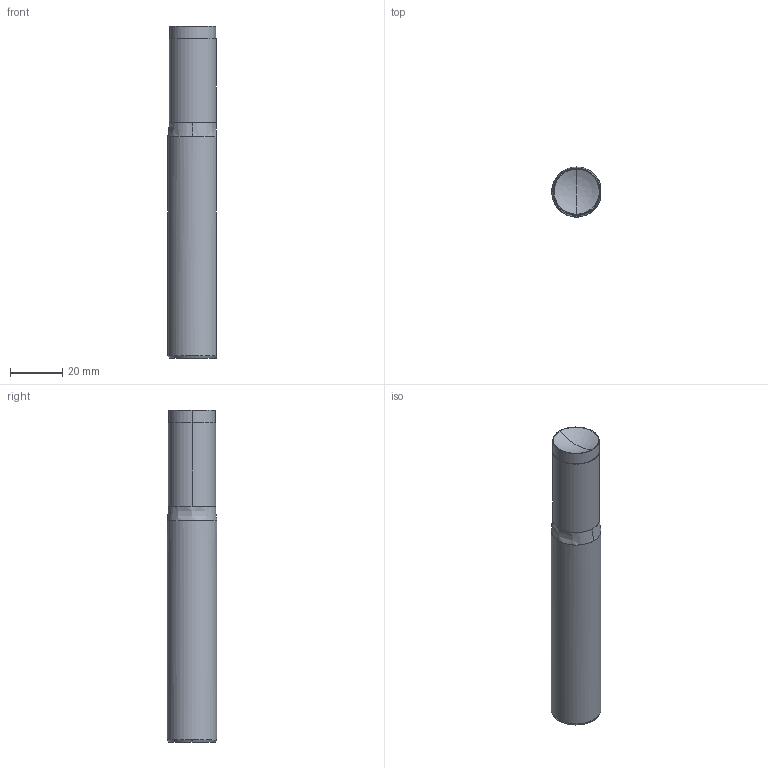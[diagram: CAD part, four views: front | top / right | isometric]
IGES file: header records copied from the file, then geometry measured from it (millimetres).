
Start section: SolidWorks IGES file using analytic representation for surfaces
Global section: file name: C:\Users\IanO\Desktop\SE0508_v2\SE0508_v2_20231218_IGES\SE0508.180-C.igs; native system: SolidWorks 2019; preprocessor: SolidWorks 2019; author: IanO; date: 231218.131429; units: millimetre
Bounding box: 18.53 x 19.05 x 127 mm (x, y, z)
Surface area: 7983.3 mm2 (no closed solid volume)
Topology: 0 solids, 0 shells, 15 faces, 256 edges, 256 vertices
Faces by surface type: revolution 9, bspline 6
